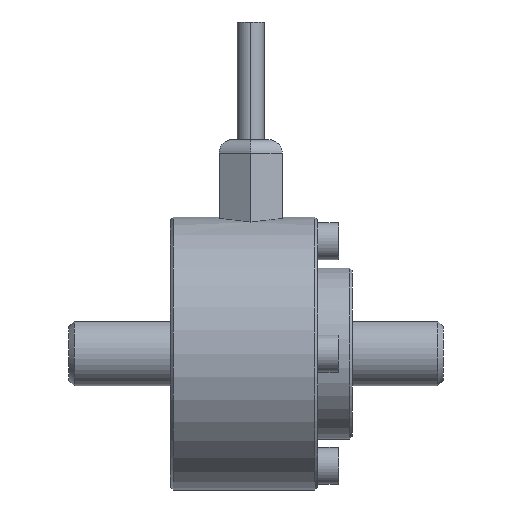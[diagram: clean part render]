
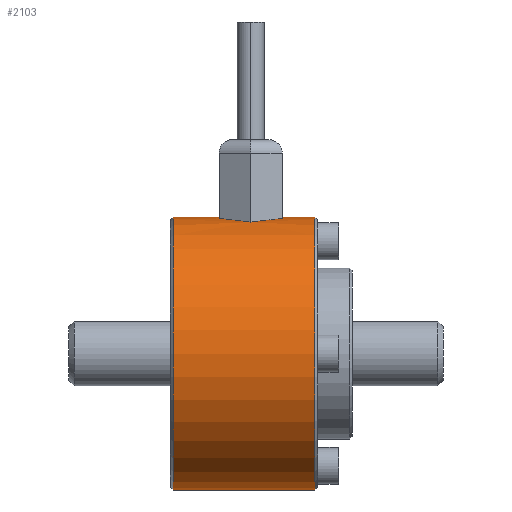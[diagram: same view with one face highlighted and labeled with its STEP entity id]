
A CAD part, left-side view. The second image highlights one B-rep face of the part: STEP entity #2103.
In plain terms, the highlighted cylindrical face has radius 25.5 mm (diameter 51 mm), a partial arc.
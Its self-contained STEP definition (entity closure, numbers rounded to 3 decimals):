
#47 = DIRECTION ( 'NONE',  ( 0., 0., -1. ) ) ;
#127 = CARTESIAN_POINT ( 'NONE',  ( 0., 41.9, 25.5 ) ) ;
#143 = VECTOR ( 'NONE', #1898, 1000. ) ;
#154 =( BOUNDED_CURVE ( )  B_SPLINE_CURVE ( 3, ( #2253, #369, #1896, #169 ),
 .UNSPECIFIED., .F., .F. ) 
 B_SPLINE_CURVE_WITH_KNOTS ( ( 4, 4 ),
 ( 1.3, 1.437 ),
 .UNSPECIFIED. ) 
 CURVE ( )  GEOMETRIC_REPRESENTATION_ITEM ( )  RATIONAL_B_SPLINE_CURVE ( ( 1., 0.998, 0.998, 1. ) ) 
 REPRESENTATION_ITEM ( '' )  );
#169 = CARTESIAN_POINT ( 'NONE',  ( -3.406, 41.9, 25.271 ) ) ;
#224 = AXIS2_PLACEMENT_3D ( 'NONE', #349, #921, #1647 ) ;
#257 = CARTESIAN_POINT ( 'NONE',  ( -6.813, 36., 24.573 ) ) ;
#320 = ORIENTED_EDGE ( 'NONE', *, *, #2474, .F. ) ;
#328 = VERTEX_POINT ( 'NONE', #1740 ) ;
#340 = DIRECTION ( 'NONE',  ( 0., 0., -1. ) ) ;
#349 = CARTESIAN_POINT ( 'NONE',  ( 0., 30.1, 0. ) ) ;
#369 = CARTESIAN_POINT ( 'NONE',  ( -5.694, 37.938, 24.883 ) ) ;
#380 = CARTESIAN_POINT ( 'NONE',  ( -3.406, 30.1, 25.271 ) ) ;
#453 = CARTESIAN_POINT ( 'NONE',  ( -5.694, 34.062, 24.883 ) ) ;
#458 = EDGE_CURVE ( 'NONE', #1940, #1015, #952, .T. ) ;
#480 = DIRECTION ( 'NONE',  ( 0., 0., 1. ) ) ;
#593 = AXIS2_PLACEMENT_3D ( 'NONE', #1795, #1587, #480 ) ;
#612 = ORIENTED_EDGE ( 'NONE', *, *, #2088, .F. ) ;
#651 = EDGE_CURVE ( 'NONE', #906, #773, #2436, .T. ) ;
#746 = DIRECTION ( 'NONE',  ( 0., -1., 0. ) ) ;
#773 = VERTEX_POINT ( 'NONE', #1424 ) ;
#837 = EDGE_CURVE ( 'NONE', #1138, #906, #2034, .T. ) ;
#848 = DIRECTION ( 'NONE',  ( 0., 1., 0. ) ) ;
#858 = CARTESIAN_POINT ( 'NONE',  ( 0., 41.9, 0. ) ) ;
#880 = EDGE_CURVE ( 'NONE', #2455, #1279, #1213, .T. ) ;
#901 = ORIENTED_EDGE ( 'NONE', *, *, #1385, .T. ) ;
#902 = CARTESIAN_POINT ( 'NONE',  ( 0., 0., 25.5 ) ) ;
#906 = VERTEX_POINT ( 'NONE', #1462 ) ;
#918 = LINE ( 'NONE', #902, #143 ) ;
#921 = DIRECTION ( 'NONE',  ( 0., -1., 0. ) ) ;
#941 = CARTESIAN_POINT ( 'NONE',  ( 0., 50.5, 25.5 ) ) ;
#952 = CIRCLE ( 'NONE', #1477, 25.5 ) ;
#979 = EDGE_CURVE ( 'NONE', #1663, #2455, #2074, .T. ) ;
#1015 = VERTEX_POINT ( 'NONE', #127 ) ;
#1016 = ORIENTED_EDGE ( 'NONE', *, *, #458, .T. ) ;
#1047 = CARTESIAN_POINT ( 'NONE',  ( -4.557, 32.093, 25.116 ) ) ;
#1064 = ORIENTED_EDGE ( 'NONE', *, *, #1377, .T. ) ;
#1073 = VECTOR ( 'NONE', #746, 1000. ) ;
#1123 = CYLINDRICAL_SURFACE ( 'NONE', #1675, 25.5 ) ;
#1138 = VERTEX_POINT ( 'NONE', #941 ) ;
#1175 = CARTESIAN_POINT ( 'NONE',  ( 0., 30.1, 25.5 ) ) ;
#1183 = CARTESIAN_POINT ( 'NONE',  ( -3.406, 41.9, 25.271 ) ) ;
#1213 =( BOUNDED_CURVE ( )  B_SPLINE_CURVE ( 3, ( #1961, #1047, #453, #257 ),
 .UNSPECIFIED., .F., .F. ) 
 B_SPLINE_CURVE_WITH_KNOTS ( ( 4, 4 ),
 ( 1.705, 1.841 ),
 .UNSPECIFIED. ) 
 CURVE ( )  GEOMETRIC_REPRESENTATION_ITEM ( )  RATIONAL_B_SPLINE_CURVE ( ( 1., 0.998, 0.998, 1. ) ) 
 REPRESENTATION_ITEM ( '' )  );
#1279 = VERTEX_POINT ( 'NONE', #1596 ) ;
#1377 = EDGE_CURVE ( 'NONE', #1279, #1940, #154, .T. ) ;
#1385 = EDGE_CURVE ( 'NONE', #773, #328, #1447, .T. ) ;
#1424 = CARTESIAN_POINT ( 'NONE',  ( 0., 24., -25.5 ) ) ;
#1447 = CIRCLE ( 'NONE', #1759, 25.5 ) ;
#1462 = CARTESIAN_POINT ( 'NONE',  ( 0., 50.5, -25.5 ) ) ;
#1477 = AXIS2_PLACEMENT_3D ( 'NONE', #858, #848, #47 ) ;
#1491 = CARTESIAN_POINT ( 'NONE',  ( 0., 0., -25.5 ) ) ;
#1494 = DIRECTION ( 'NONE',  ( 0., 1., 0. ) ) ;
#1499 = CARTESIAN_POINT ( 'NONE',  ( 0., 0., 25.5 ) ) ;
#1572 = EDGE_LOOP ( 'NONE', ( #612, #1677, #2056, #901, #320, #1788, #2046, #1064, #1016 ) ) ;
#1587 = DIRECTION ( 'NONE',  ( 0., -1., 0. ) ) ;
#1596 = CARTESIAN_POINT ( 'NONE',  ( -6.813, 36., 24.573 ) ) ;
#1647 = DIRECTION ( 'NONE',  ( 0., 0., 1. ) ) ;
#1663 = VERTEX_POINT ( 'NONE', #1175 ) ;
#1675 = AXIS2_PLACEMENT_3D ( 'NONE', #1890, #1866, #2259 ) ;
#1677 = ORIENTED_EDGE ( 'NONE', *, *, #837, .T. ) ;
#1715 = CARTESIAN_POINT ( 'NONE',  ( 0., 24., 0. ) ) ;
#1740 = CARTESIAN_POINT ( 'NONE',  ( 0., 24., 25.5 ) ) ;
#1759 = AXIS2_PLACEMENT_3D ( 'NONE', #1715, #1494, #340 ) ;
#1788 = ORIENTED_EDGE ( 'NONE', *, *, #979, .T. ) ;
#1795 = CARTESIAN_POINT ( 'NONE',  ( 0., 50.5, 0. ) ) ;
#1848 = DIRECTION ( 'NONE',  ( 0., -1., 0. ) ) ;
#1866 = DIRECTION ( 'NONE',  ( 0., -1., 0. ) ) ;
#1890 = CARTESIAN_POINT ( 'NONE',  ( 0., 0., 0. ) ) ;
#1896 = CARTESIAN_POINT ( 'NONE',  ( -4.557, 39.907, 25.116 ) ) ;
#1898 = DIRECTION ( 'NONE',  ( 0., -1., 0. ) ) ;
#1940 = VERTEX_POINT ( 'NONE', #1183 ) ;
#1961 = CARTESIAN_POINT ( 'NONE',  ( -3.406, 30.1, 25.271 ) ) ;
#2034 = CIRCLE ( 'NONE', #593, 25.5 ) ;
#2046 = ORIENTED_EDGE ( 'NONE', *, *, #880, .T. ) ;
#2056 = ORIENTED_EDGE ( 'NONE', *, *, #651, .T. ) ;
#2064 = FACE_OUTER_BOUND ( 'NONE', #1572, .T. ) ;
#2074 = CIRCLE ( 'NONE', #224, 25.5 ) ;
#2088 = EDGE_CURVE ( 'NONE', #1138, #1015, #2444, .T. ) ;
#2103 = ADVANCED_FACE ( 'NONE', ( #2064 ), #1123, .T. ) ;
#2253 = CARTESIAN_POINT ( 'NONE',  ( -6.813, 36., 24.573 ) ) ;
#2259 = DIRECTION ( 'NONE',  ( 0., 0., -1. ) ) ;
#2434 = VECTOR ( 'NONE', #1848, 1000. ) ;
#2436 = LINE ( 'NONE', #1491, #2434 ) ;
#2444 = LINE ( 'NONE', #1499, #1073 ) ;
#2455 = VERTEX_POINT ( 'NONE', #380 ) ;
#2474 = EDGE_CURVE ( 'NONE', #1663, #328, #918, .T. ) ;
